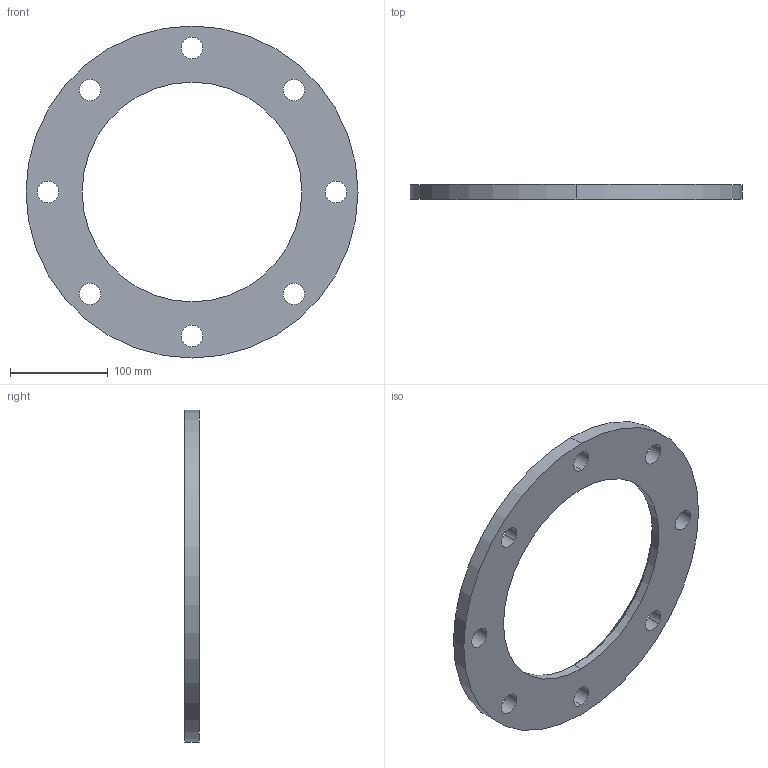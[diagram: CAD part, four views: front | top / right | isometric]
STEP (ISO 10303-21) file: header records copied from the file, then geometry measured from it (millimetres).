
FILE_DESCRIPTION (( 'STEP AP203' ), '1' );
FILE_NAME ('3D_R185_PN10_DN254_176641195_176642195.STEP', '2024-07-10T07:18:32', ( '' ), ( '' ), 'SwSTEP 2.0', 'SolidWorks 2024', '' );
FILE_SCHEMA (( 'CONFIG_CONTROL_DESIGN' ));
Length unit declared in the file: millimetre
Products named in the file (1): 3D_R185_PN10_DN254_176641195_176642195
Bounding box: 340 x 15 x 340 mm (x, y, z)
Volume: 708987.3 mm3; surface area: 128661.2 mm2
Topology: 1 solids, 1 shells, 24 faces, 64 edges, 42 vertices
Faces by surface type: cylinder 20, cone 2, plane 2
Entity records: 887 total; most frequent: DIRECTION 156, CARTESIAN_POINT 131, ORIENTED_EDGE 128, AXIS2_PLACEMENT_3D 67, EDGE_CURVE 64, EDGE_LOOP 42, CIRCLE 42, VERTEX_POINT 42
